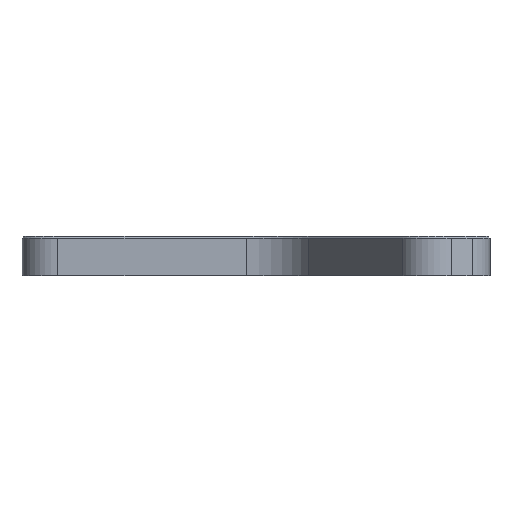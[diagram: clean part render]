
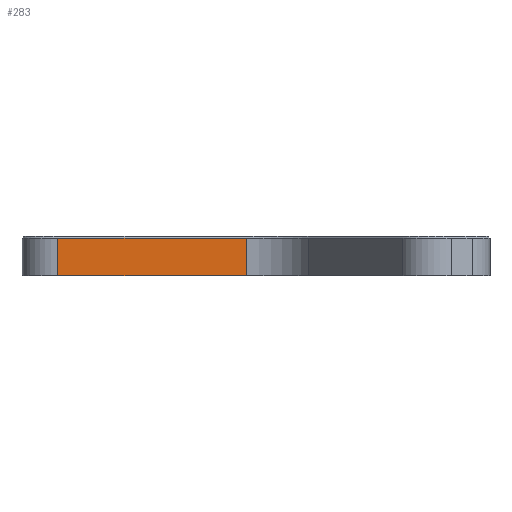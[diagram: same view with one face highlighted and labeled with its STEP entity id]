
A CAD part, left-side view. The second image highlights one B-rep face of the part: STEP entity #283.
In plain terms, the highlighted planar face has unit normal (-1, 0, 0).
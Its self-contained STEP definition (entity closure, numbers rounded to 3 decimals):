
#36 = VECTOR ( 'NONE', #962, 1000. ) ;
#63 = EDGE_CURVE ( 'NONE', #601, #4019, #1443, .T. ) ;
#141 = VECTOR ( 'NONE', #4252, 1000. ) ;
#207 = DIRECTION ( 'NONE',  ( 0., 0., -1. ) ) ;
#239 = CARTESIAN_POINT ( 'NONE',  ( -12., 65., 0. ) ) ;
#283 = ADVANCED_FACE ( 'NONE', ( #2281 ), #3827, .F. ) ;
#308 = VECTOR ( 'NONE', #207, 1000. ) ;
#593 = ORIENTED_EDGE ( 'NONE', *, *, #63, .F. ) ;
#601 = VERTEX_POINT ( 'NONE', #1714 ) ;
#743 = CARTESIAN_POINT ( 'NONE',  ( -12., 65., 0. ) ) ;
#846 = LINE ( 'NONE', #3179, #5196 ) ;
#880 = EDGE_CURVE ( 'NONE', #601, #5028, #846, .T. ) ;
#962 = DIRECTION ( 'NONE',  ( 0., -1., 0. ) ) ;
#1012 = EDGE_CURVE ( 'NONE', #4167, #4019, #1184, .T. ) ;
#1178 = CARTESIAN_POINT ( 'NONE',  ( -12., 65., 9.5 ) ) ;
#1184 = LINE ( 'NONE', #239, #36 ) ;
#1443 = LINE ( 'NONE', #2442, #308 ) ;
#1704 = EDGE_CURVE ( 'NONE', #5028, #4167, #4799, .T. ) ;
#1714 = CARTESIAN_POINT ( 'NONE',  ( -12., 17.321, 9.5 ) ) ;
#2184 = ORIENTED_EDGE ( 'NONE', *, *, #880, .T. ) ;
#2281 = FACE_OUTER_BOUND ( 'NONE', #4464, .T. ) ;
#2327 = ORIENTED_EDGE ( 'NONE', *, *, #1012, .T. ) ;
#2366 = CARTESIAN_POINT ( 'NONE',  ( -12., 17.321, 0. ) ) ;
#2442 = CARTESIAN_POINT ( 'NONE',  ( -12., 17.321, 10. ) ) ;
#2709 = CARTESIAN_POINT ( 'NONE',  ( -12., 65., 10. ) ) ;
#2976 = ORIENTED_EDGE ( 'NONE', *, *, #1704, .T. ) ;
#3179 = CARTESIAN_POINT ( 'NONE',  ( -12., 65., 9.5 ) ) ;
#3827 = PLANE ( 'NONE',  #4619 ) ;
#4019 = VERTEX_POINT ( 'NONE', #2366 ) ;
#4106 = DIRECTION ( 'NONE',  ( 0., 1., 0. ) ) ;
#4167 = VERTEX_POINT ( 'NONE', #743 ) ;
#4225 = CARTESIAN_POINT ( 'NONE',  ( -12., 65., 10. ) ) ;
#4252 = DIRECTION ( 'NONE',  ( 0., 0., -1. ) ) ;
#4272 = DIRECTION ( 'NONE',  ( 1., 0., 0. ) ) ;
#4464 = EDGE_LOOP ( 'NONE', ( #593, #2184, #2976, #2327 ) ) ;
#4619 = AXIS2_PLACEMENT_3D ( 'NONE', #4225, #4272, #5091 ) ;
#4799 = LINE ( 'NONE', #2709, #141 ) ;
#5028 = VERTEX_POINT ( 'NONE', #1178 ) ;
#5091 = DIRECTION ( 'NONE',  ( 0., 0., -1. ) ) ;
#5196 = VECTOR ( 'NONE', #4106, 1000. ) ;
